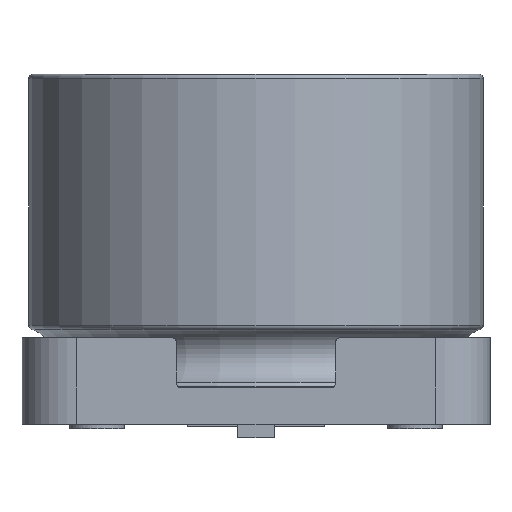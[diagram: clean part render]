
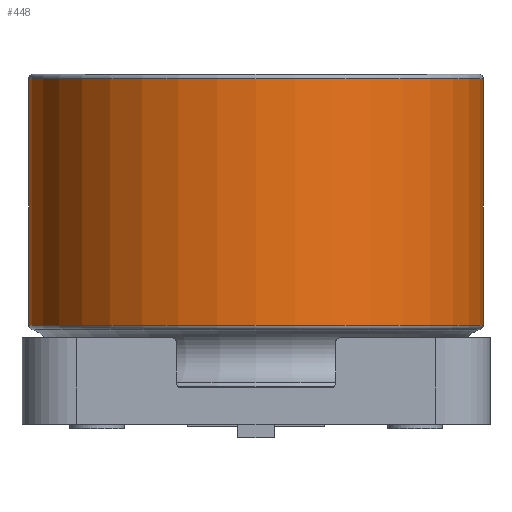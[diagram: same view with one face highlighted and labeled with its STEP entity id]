
A CAD part, left-side view. The second image highlights one B-rep face of the part: STEP entity #448.
In plain terms, the highlighted cylindrical face has radius 5 mm (diameter 10 mm), a full revolution.
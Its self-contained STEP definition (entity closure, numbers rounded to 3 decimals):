
#220=CYLINDRICAL_SURFACE('',#2509,5.);
#448=ADVANCED_FACE('',(#602,#603),#220,.T.);
#602=FACE_BOUND('',#680,.T.);
#603=FACE_BOUND('',#681,.T.);
#680=EDGE_LOOP('',(#1139));
#681=EDGE_LOOP('',(#1140));
#802=CIRCLE('',#2507,5.);
#803=CIRCLE('',#2508,5.);
#1139=ORIENTED_EDGE('',*,*,#1860,.T.);
#1140=ORIENTED_EDGE('',*,*,#1861,.T.);
#1609=VERTEX_POINT('',#3786);
#1610=VERTEX_POINT('',#3788);
#1860=EDGE_CURVE('',#1609,#1609,#802,.T.);
#1861=EDGE_CURVE('',#1610,#1610,#803,.T.);
#2507=AXIS2_PLACEMENT_3D('',#3785,#2935,#2936);
#2508=AXIS2_PLACEMENT_3D('',#3787,#2937,#2938);
#2509=AXIS2_PLACEMENT_3D('',#3789,#2939,#2940);
#2935=DIRECTION('',(0.,0.,1.));
#2936=DIRECTION('',(1.,0.,0.));
#2937=DIRECTION('',(0.,0.,-1.));
#2938=DIRECTION('',(-1.,0.,0.));
#2939=DIRECTION('',(0.,0.,-1.));
#2940=DIRECTION('',(-1.,0.,0.));
#3785=CARTESIAN_POINT('',(0.,0.,2.178));
#3786=CARTESIAN_POINT('',(5.,0.,2.178));
#3787=CARTESIAN_POINT('',(0.,0.,7.6));
#3788=CARTESIAN_POINT('',(-5.,0.,7.6));
#3789=CARTESIAN_POINT('',(0.,0.,0.));
